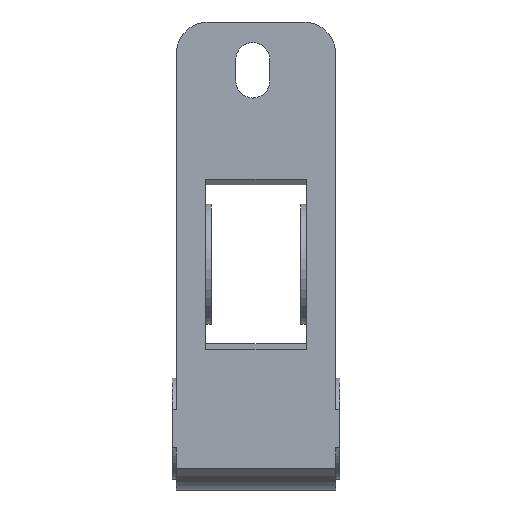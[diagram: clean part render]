
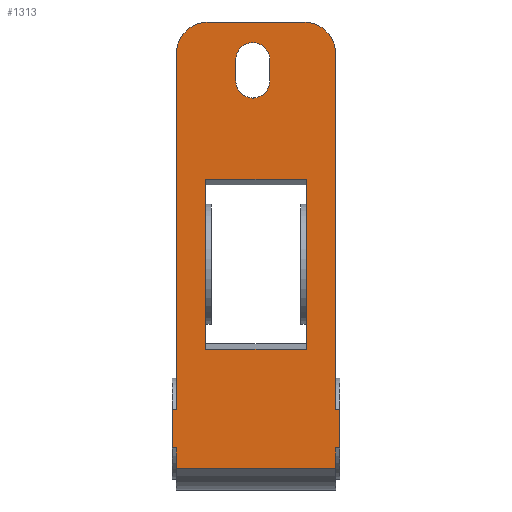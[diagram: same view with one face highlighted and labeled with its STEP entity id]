
A CAD part, left-side view. The second image highlights one B-rep face of the part: STEP entity #1313.
In plain terms, the highlighted planar face has unit normal (-1, 0, 0).
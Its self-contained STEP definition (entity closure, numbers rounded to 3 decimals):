
#50=FACE_BOUND('',#202,.T.);
#51=FACE_BOUND('',#203,.T.);
#55=CIRCLE('',#1385,3.);
#56=CIRCLE('',#1386,3.);
#57=CIRCLE('',#1387,1.6);
#58=CIRCLE('',#1388,0.5);
#59=CIRCLE('',#1389,0.5);
#60=CIRCLE('',#1390,1.6);
#61=CIRCLE('',#1391,1.6);
#132=FACE_OUTER_BOUND('',#201,.T.);
#201=EDGE_LOOP('',(#874,#875,#876,#877,#878,#879,#880,#881,#882,#883,#884,
#885,#886,#887));
#202=EDGE_LOOP('',(#888,#889,#890,#891));
#203=EDGE_LOOP('',(#892,#893,#894,#895,#896,#897,#898));
#275=LINE('',#1954,#403);
#278=LINE('',#1961,#406);
#279=LINE('',#1963,#407);
#280=LINE('',#1965,#408);
#281=LINE('',#1967,#409);
#282=LINE('',#1969,#410);
#283=LINE('',#1971,#411);
#284=LINE('',#1973,#412);
#285=LINE('',#1975,#413);
#286=LINE('',#1977,#414);
#287=LINE('',#1981,#415);
#288=LINE('',#1985,#416);
#289=LINE('',#1986,#417);
#290=LINE('',#1988,#418);
#291=LINE('',#1990,#419);
#292=LINE('',#1991,#420);
#293=LINE('',#1994,#421);
#294=LINE('',#2004,#422);
#403=VECTOR('',#1533,10.);
#406=VECTOR('',#1538,10.);
#407=VECTOR('',#1539,10.);
#408=VECTOR('',#1540,10.);
#409=VECTOR('',#1541,10.);
#410=VECTOR('',#1542,10.);
#411=VECTOR('',#1543,10.);
#412=VECTOR('',#1544,10.);
#413=VECTOR('',#1545,10.);
#414=VECTOR('',#1546,10.);
#415=VECTOR('',#1549,10.);
#416=VECTOR('',#1552,10.);
#417=VECTOR('',#1553,10.);
#418=VECTOR('',#1554,10.);
#419=VECTOR('',#1555,10.);
#420=VECTOR('',#1556,10.);
#421=VECTOR('',#1557,10.);
#422=VECTOR('',#1566,10.);
#531=VERTEX_POINT('',#1951);
#532=VERTEX_POINT('',#1953);
#534=VERTEX_POINT('',#1959);
#535=VERTEX_POINT('',#1960);
#536=VERTEX_POINT('',#1962);
#537=VERTEX_POINT('',#1964);
#538=VERTEX_POINT('',#1966);
#539=VERTEX_POINT('',#1968);
#540=VERTEX_POINT('',#1970);
#541=VERTEX_POINT('',#1972);
#542=VERTEX_POINT('',#1974);
#543=VERTEX_POINT('',#1976);
#544=VERTEX_POINT('',#1978);
#545=VERTEX_POINT('',#1980);
#546=VERTEX_POINT('',#1982);
#547=VERTEX_POINT('',#1984);
#548=VERTEX_POINT('',#1987);
#549=VERTEX_POINT('',#1989);
#550=VERTEX_POINT('',#1992);
#551=VERTEX_POINT('',#1993);
#552=VERTEX_POINT('',#1995);
#553=VERTEX_POINT('',#1997);
#554=VERTEX_POINT('',#1999);
#555=VERTEX_POINT('',#2001);
#556=VERTEX_POINT('',#2003);
#667=EDGE_CURVE('',#531,#532,#275,.T.);
#670=EDGE_CURVE('',#534,#535,#278,.T.);
#671=EDGE_CURVE('',#536,#534,#279,.T.);
#672=EDGE_CURVE('',#537,#536,#280,.T.);
#673=EDGE_CURVE('',#538,#537,#281,.T.);
#674=EDGE_CURVE('',#539,#538,#282,.F.);
#675=EDGE_CURVE('',#540,#539,#283,.T.);
#676=EDGE_CURVE('',#541,#540,#284,.F.);
#677=EDGE_CURVE('',#542,#541,#285,.T.);
#678=EDGE_CURVE('',#543,#542,#286,.F.);
#679=EDGE_CURVE('',#544,#543,#55,.T.);
#680=EDGE_CURVE('',#544,#545,#287,.F.);
#681=EDGE_CURVE('',#546,#545,#56,.T.);
#682=EDGE_CURVE('',#547,#546,#288,.T.);
#683=EDGE_CURVE('',#535,#547,#289,.T.);
#684=EDGE_CURVE('',#532,#548,#290,.T.);
#685=EDGE_CURVE('',#549,#531,#291,.T.);
#686=EDGE_CURVE('',#548,#549,#292,.T.);
#687=EDGE_CURVE('',#550,#551,#293,.T.);
#688=EDGE_CURVE('',#551,#552,#57,.T.);
#689=EDGE_CURVE('',#552,#553,#58,.T.);
#690=EDGE_CURVE('',#553,#554,#59,.T.);
#691=EDGE_CURVE('',#554,#555,#60,.T.);
#692=EDGE_CURVE('',#555,#556,#294,.T.);
#693=EDGE_CURVE('',#556,#550,#61,.T.);
#874=ORIENTED_EDGE('',*,*,#670,.F.);
#875=ORIENTED_EDGE('',*,*,#671,.F.);
#876=ORIENTED_EDGE('',*,*,#672,.F.);
#877=ORIENTED_EDGE('',*,*,#673,.F.);
#878=ORIENTED_EDGE('',*,*,#674,.F.);
#879=ORIENTED_EDGE('',*,*,#675,.F.);
#880=ORIENTED_EDGE('',*,*,#676,.F.);
#881=ORIENTED_EDGE('',*,*,#677,.F.);
#882=ORIENTED_EDGE('',*,*,#678,.F.);
#883=ORIENTED_EDGE('',*,*,#679,.F.);
#884=ORIENTED_EDGE('',*,*,#680,.T.);
#885=ORIENTED_EDGE('',*,*,#681,.F.);
#886=ORIENTED_EDGE('',*,*,#682,.F.);
#887=ORIENTED_EDGE('',*,*,#683,.F.);
#888=ORIENTED_EDGE('',*,*,#684,.F.);
#889=ORIENTED_EDGE('',*,*,#667,.F.);
#890=ORIENTED_EDGE('',*,*,#685,.F.);
#891=ORIENTED_EDGE('',*,*,#686,.F.);
#892=ORIENTED_EDGE('',*,*,#687,.T.);
#893=ORIENTED_EDGE('',*,*,#688,.T.);
#894=ORIENTED_EDGE('',*,*,#689,.T.);
#895=ORIENTED_EDGE('',*,*,#690,.T.);
#896=ORIENTED_EDGE('',*,*,#691,.T.);
#897=ORIENTED_EDGE('',*,*,#692,.T.);
#898=ORIENTED_EDGE('',*,*,#693,.T.);
#1279=PLANE('',#1384);
#1313=ADVANCED_FACE('',(#132,#50,#51),#1279,.T.);
#1384=AXIS2_PLACEMENT_3D('',#1958,#1536,#1537);
#1385=AXIS2_PLACEMENT_3D('',#1979,#1547,#1548);
#1386=AXIS2_PLACEMENT_3D('',#1983,#1550,#1551);
#1387=AXIS2_PLACEMENT_3D('',#1996,#1558,#1559);
#1388=AXIS2_PLACEMENT_3D('',#1998,#1560,#1561);
#1389=AXIS2_PLACEMENT_3D('',#2000,#1562,#1563);
#1390=AXIS2_PLACEMENT_3D('',#2002,#1564,#1565);
#1391=AXIS2_PLACEMENT_3D('',#2005,#1567,#1568);
#1533=DIRECTION('',(0.,-1.,0.));
#1536=DIRECTION('center_axis',(-1.,0.,0.));
#1537=DIRECTION('ref_axis',(0.,0.,
-1.));
#1538=DIRECTION('',(0.,0.,1.));
#1539=DIRECTION('',(0.,1.,0.));
#1540=DIRECTION('',(0.,0.,1.));
#1541=DIRECTION('',(0.,1.,0.));
#1542=DIRECTION('',(0.,0.,1.));
#1543=DIRECTION('',(0.,1.,0.));
#1544=DIRECTION('',(0.,0.,1.));
#1545=DIRECTION('',(0.,-1.,0.));
#1546=DIRECTION('',(0.,0.,1.));
#1547=DIRECTION('center_axis',(1.,0.,0.));
#1548=DIRECTION('ref_axis',(0.,-0.707,0.707));
#1549=DIRECTION('',(0.,-1.,0.));
#1550=DIRECTION('center_axis',(1.,0.,0.));
#1551=DIRECTION('ref_axis',(0.,0.707,0.707));
#1552=DIRECTION('',(0.,0.,1.));
#1553=DIRECTION('',(0.,-1.,0.));
#1554=DIRECTION('',(0.,0.,1.));
#1555=DIRECTION('',(0.,0.,-1.));
#1556=DIRECTION('',(0.,1.,0.));
#1557=DIRECTION('',(0.,0.,-1.));
#1558=DIRECTION('center_axis',(1.,0.,0.));
#1559=DIRECTION('ref_axis',(0.,-1.,0.));
#1560=DIRECTION('center_axis',(-1.,0.,0.));
#1561=DIRECTION('ref_axis',(0.,0.41,0.912));
#1562=DIRECTION('center_axis',(-1.,0.,0.));
#1563=DIRECTION('ref_axis',(0.,-0.098,0.995));
#1564=DIRECTION('center_axis',(1.,0.,0.));
#1565=DIRECTION('ref_axis',(0.,0.098,-0.995));
#1566=DIRECTION('',(0.,0.,1.));
#1567=DIRECTION('center_axis',(1.,0.,0.));
#1568=DIRECTION('ref_axis',(0.,1.,0.));
#1951=CARTESIAN_POINT('',(12.448,39.385,51.004));
#1953=CARTESIAN_POINT('',(12.448,29.885,51.004));
#1954=CARTESIAN_POINT('',(12.448,29.885,51.004));
#1958=CARTESIAN_POINT('Origin',(12.448,29.885,81.824));
#1959=CARTESIAN_POINT('',(12.448,42.535,41.734));
#1960=CARTESIAN_POINT('',(12.448,42.535,45.313));
#1961=CARTESIAN_POINT('',(12.448,42.535,62.674));
#1962=CARTESIAN_POINT('',(12.448,42.135,41.734));
#1963=CARTESIAN_POINT('',(12.448,42.535,41.734));
#1964=CARTESIAN_POINT('',(12.448,42.135,39.822));
#1965=CARTESIAN_POINT('',(12.448,42.135,73.236));
#1966=CARTESIAN_POINT('',(12.448,27.135,39.822));
#1967=CARTESIAN_POINT('',(12.448,29.885,39.822));
#1968=CARTESIAN_POINT('',(12.448,27.135,41.734));
#1969=CARTESIAN_POINT('',(12.448,27.135,73.236));
#1970=CARTESIAN_POINT('',(12.448,26.735,41.734));
#1971=CARTESIAN_POINT('',(12.448,42.535,41.734));
#1972=CARTESIAN_POINT('',(12.448,26.735,45.313));
#1973=CARTESIAN_POINT('',(12.448,26.735,62.674));
#1974=CARTESIAN_POINT('',(12.448,27.135,45.313));
#1975=CARTESIAN_POINT('',(12.448,42.535,45.313));
#1976=CARTESIAN_POINT('',(12.448,27.135,78.824));
#1977=CARTESIAN_POINT('',(12.448,27.135,73.236));
#1978=CARTESIAN_POINT('',(12.448,30.135,81.824));
#1979=CARTESIAN_POINT('Origin',(12.448,30.135,78.824));
#1980=CARTESIAN_POINT('',(12.448,39.135,81.824));
#1981=CARTESIAN_POINT('',(12.448,29.885,81.824));
#1982=CARTESIAN_POINT('',(12.448,42.135,78.824));
#1983=CARTESIAN_POINT('Origin',(12.448,39.135,78.824));
#1984=CARTESIAN_POINT('',(12.448,42.135,45.313));
#1985=CARTESIAN_POINT('',(12.448,42.135,73.236));
#1986=CARTESIAN_POINT('',(12.448,42.535,45.313));
#1987=CARTESIAN_POINT('',(12.448,29.885,67.044));
#1988=CARTESIAN_POINT('',(12.448,29.885,70.372));
#1989=CARTESIAN_POINT('',(12.448,39.385,67.044));
#1990=CARTESIAN_POINT('',(12.448,39.385,70.372));
#1991=CARTESIAN_POINT('',(12.448,29.885,67.044));
#1992=CARTESIAN_POINT('',(12.448,33.335,78.274));
#1993=CARTESIAN_POINT('',(12.448,33.335,76.274));
#1994=CARTESIAN_POINT('',(12.448,33.335,79.049));
#1995=CARTESIAN_POINT('',(12.448,34.779,74.681));
#1996=CARTESIAN_POINT('Origin',(12.448,34.935,76.274));
#1997=CARTESIAN_POINT('',(12.448,34.935,74.64));
#1998=CARTESIAN_POINT('Origin',(12.448,34.73,74.184));
#1999=CARTESIAN_POINT('',(12.448,35.091,74.681));
#2000=CARTESIAN_POINT('Origin',(12.448,35.14,74.184));
#2001=CARTESIAN_POINT('',(12.448,36.535,76.274));
#2002=CARTESIAN_POINT('Origin',(12.448,34.935,76.274));
#2003=CARTESIAN_POINT('',(12.448,36.535,78.274));
#2004=CARTESIAN_POINT('',(12.448,36.535,80.049));
#2005=CARTESIAN_POINT('Origin',(12.448,34.935,78.274));
